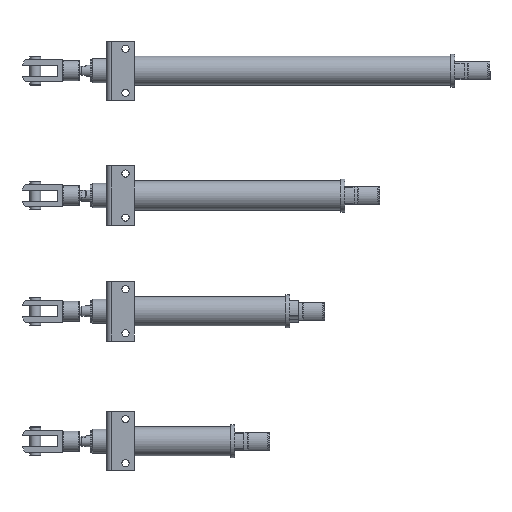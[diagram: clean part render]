
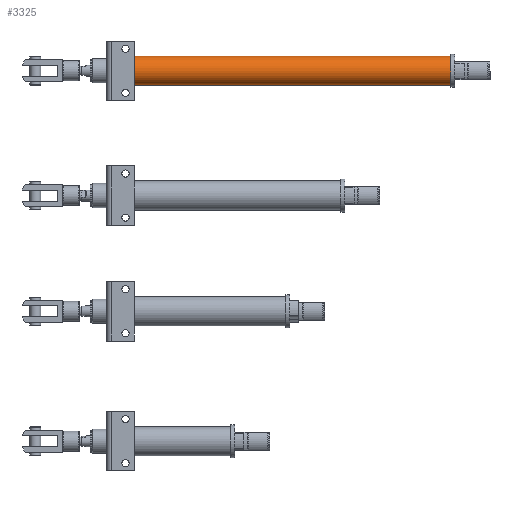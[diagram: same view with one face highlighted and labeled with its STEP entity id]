
A CAD part, front view. The second image highlights one B-rep face of the part: STEP entity #3325.
In plain terms, the highlighted cylindrical face has radius 13.26 mm (diameter 26.52 mm), a full revolution.
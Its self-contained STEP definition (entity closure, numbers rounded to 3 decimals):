
#362=LINE('',#5793,#604);
#604=VECTOR('',#4657,13.26);
#786=CYLINDRICAL_SURFACE('',#3930,13.26);
#951=FACE_OUTER_BOUND('',#1172,.T.);
#1172=EDGE_LOOP('',(#2582,#2583,#2584,#2585));
#1378=CIRCLE('',#3928,13.26);
#1380=CIRCLE('',#3931,13.26);
#1591=VERTEX_POINT('',#5786);
#1593=VERTEX_POINT('',#5791);
#1949=EDGE_CURVE('',#1591,#1591,#1378,.T.);
#1951=EDGE_CURVE('',#1593,#1593,#1380,.T.);
#1952=EDGE_CURVE('',#1593,#1591,#362,.T.);
#2582=ORIENTED_EDGE('',*,*,#1951,.F.);
#2583=ORIENTED_EDGE('',*,*,#1952,.T.);
#2584=ORIENTED_EDGE('',*,*,#1949,.T.);
#2585=ORIENTED_EDGE('',*,*,#1952,.F.);
#3325=ADVANCED_FACE('',(#951),#786,.T.);
#3928=AXIS2_PLACEMENT_3D('',#5787,#4649,#4650);
#3930=AXIS2_PLACEMENT_3D('',#5790,#4653,#4654);
#3931=AXIS2_PLACEMENT_3D('',#5792,#4655,#4656);
#4649=DIRECTION('center_axis',(1.,0.,0.));
#4650=DIRECTION('ref_axis',(0.,0.,-1.));
#4653=DIRECTION('center_axis',(1.,0.,0.));
#4654=DIRECTION('ref_axis',(0.,1.,0.));
#4655=DIRECTION('center_axis',(1.,0.,0.));
#4656=DIRECTION('ref_axis',(0.,0.,-1.));
#4657=DIRECTION('',(-1.,0.,0.));
#5786=CARTESIAN_POINT('',(0.,-13.26,0.));
#5787=CARTESIAN_POINT('Origin',(0.,0.,0.));
#5790=CARTESIAN_POINT('Origin',(146.,0.,0.));
#5791=CARTESIAN_POINT('',(292.,-13.26,0.));
#5792=CARTESIAN_POINT('Origin',(292.,0.,0.));
#5793=CARTESIAN_POINT('',(146.,-13.26,0.));
